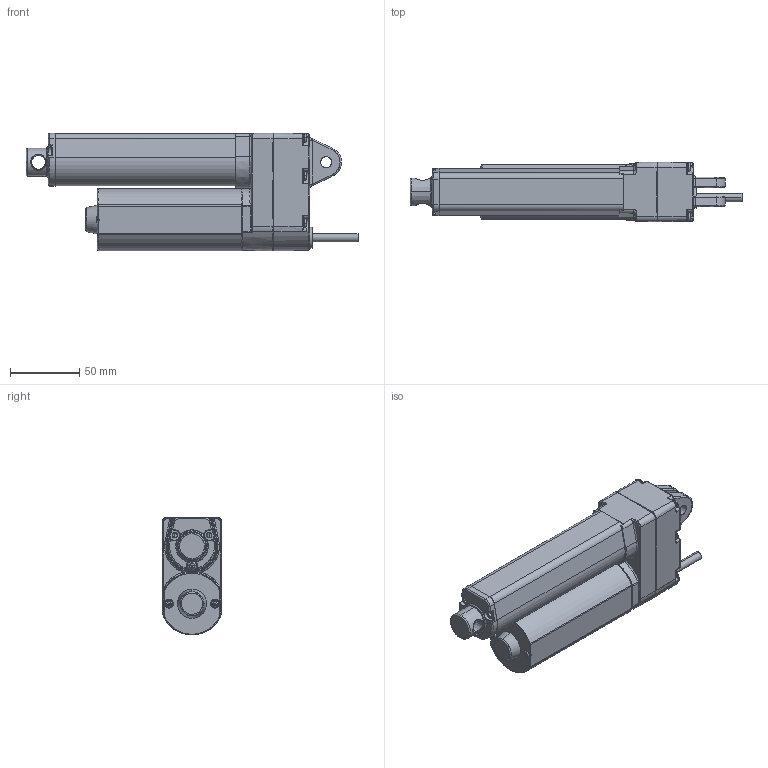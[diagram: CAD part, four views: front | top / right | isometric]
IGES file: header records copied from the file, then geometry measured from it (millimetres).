
Start section: SolidWorks IGES file using analytic representation for surfaces
Bounding box: 239.7 x 42.99 x 84.99 mm (x, y, z)
Surface area: 85201.4 mm2 (no closed solid volume)
Topology: 0 solids, 0 shells, 749 faces, 8221 edges, 8209 vertices
Faces by surface type: bspline 455, revolution 294
